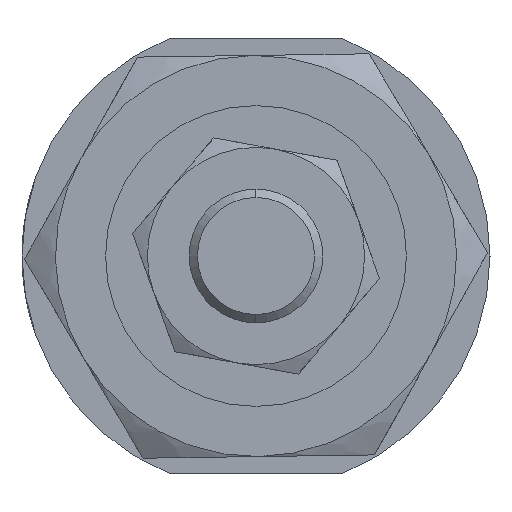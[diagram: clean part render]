
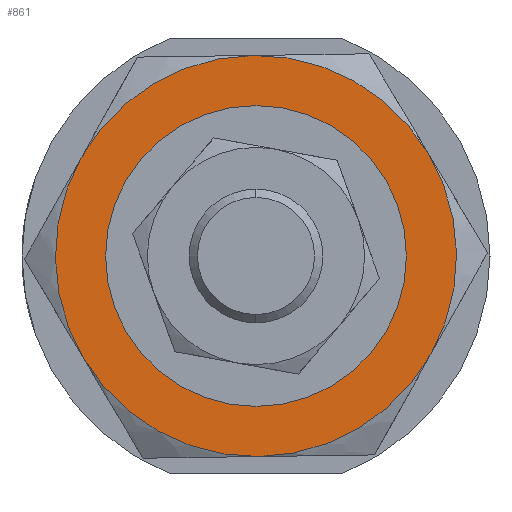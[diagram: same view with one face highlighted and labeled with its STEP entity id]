
A CAD part, left-side view. The second image highlights one B-rep face of the part: STEP entity #861.
In plain terms, the highlighted planar face has unit normal (-1, 0, 0) as drawn and (0, 0, -1) by its records, which use the part's own axes.
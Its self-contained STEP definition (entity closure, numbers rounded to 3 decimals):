
#3 = CIRCLE ( 'NONE', #1424, 12. ) ;
#40 = VERTEX_POINT ( 'NONE', #65 ) ;
#65 = CARTESIAN_POINT ( 'NONE',  ( -6., 10.392, -4. ) ) ;
#128 = DIRECTION ( 'NONE',  ( 0., 0., 1. ) ) ;
#292 = EDGE_CURVE ( 'NONE', #2712, #2798, #1678, .T. ) ;
#309 = VERTEX_POINT ( 'NONE', #1172 ) ;
#412 = FACE_BOUND ( 'NONE', #1720, .T. ) ;
#442 = DIRECTION ( 'NONE',  ( 0., 0., 1. ) ) ;
#443 = CIRCLE ( 'NONE', #2766, 12. ) ;
#471 = DIRECTION ( 'NONE',  ( 0., 0., 1. ) ) ;
#477 = DIRECTION ( 'NONE',  ( 1., 0., 0. ) ) ;
#511 = CIRCLE ( 'NONE', #2708, 12. ) ;
#552 = AXIS2_PLACEMENT_3D ( 'NONE', #643, #2768, #2033 ) ;
#580 = DIRECTION ( 'NONE',  ( 0., 0., 1. ) ) ;
#618 = EDGE_CURVE ( 'NONE', #309, #1118, #1899, .T. ) ;
#631 = CIRCLE ( 'NONE', #2031, 12. ) ;
#643 = CARTESIAN_POINT ( 'NONE',  ( 0., 0., -4. ) ) ;
#689 = CARTESIAN_POINT ( 'NONE',  ( 0., 0., -4. ) ) ;
#807 = CARTESIAN_POINT ( 'NONE',  ( 6., -10.392, -4. ) ) ;
#820 = EDGE_LOOP ( 'NONE', ( #1946, #2755, #2427, #1942, #1575, #899 ) ) ;
#860 = CARTESIAN_POINT ( 'NONE',  ( 6., 10.392, -4. ) ) ;
#861 = ADVANCED_FACE ( 'NONE', ( #412, #1142 ), #1188, .F. ) ;
#872 = AXIS2_PLACEMENT_3D ( 'NONE', #1376, #128, #2034 ) ;
#899 = ORIENTED_EDGE ( 'NONE', *, *, #2278, .F. ) ;
#904 = ORIENTED_EDGE ( 'NONE', *, *, #618, .T. ) ;
#929 = AXIS2_PLACEMENT_3D ( 'NONE', #1695, #471, #477 ) ;
#998 = EDGE_CURVE ( 'NONE', #2883, #2711, #1374, .T. ) ;
#1009 = CARTESIAN_POINT ( 'NONE',  ( 0., 0., -4. ) ) ;
#1033 = DIRECTION ( 'NONE',  ( 0., 0., 1. ) ) ;
#1046 = DIRECTION ( 'NONE',  ( 1., 0., 0. ) ) ;
#1118 = VERTEX_POINT ( 'NONE', #1289 ) ;
#1127 = CARTESIAN_POINT ( 'NONE',  ( -6., -10.392, -4. ) ) ;
#1142 = FACE_OUTER_BOUND ( 'NONE', #820, .T. ) ;
#1172 = CARTESIAN_POINT ( 'NONE',  ( -8.25, 0., -4. ) ) ;
#1177 = AXIS2_PLACEMENT_3D ( 'NONE', #2891, #2879, #2543 ) ;
#1188 = PLANE ( 'NONE',  #929 ) ;
#1278 = CARTESIAN_POINT ( 'NONE',  ( 12., 0., -4. ) ) ;
#1289 = CARTESIAN_POINT ( 'NONE',  ( 8.25, 0., -4. ) ) ;
#1310 = DIRECTION ( 'NONE',  ( 1., 0., 0. ) ) ;
#1374 = CIRCLE ( 'NONE', #2667, 12. ) ;
#1376 = CARTESIAN_POINT ( 'NONE',  ( 0., 0., -4. ) ) ;
#1424 = AXIS2_PLACEMENT_3D ( 'NONE', #2800, #442, #3032 ) ;
#1552 = CARTESIAN_POINT ( 'NONE',  ( -12., 0., -4. ) ) ;
#1574 = EDGE_CURVE ( 'NONE', #1118, #309, #2444, .T. ) ;
#1575 = ORIENTED_EDGE ( 'NONE', *, *, #2932, .F. ) ;
#1678 = CIRCLE ( 'NONE', #552, 12. ) ;
#1695 = CARTESIAN_POINT ( 'NONE',  ( 0., 0., -4. ) ) ;
#1720 = EDGE_LOOP ( 'NONE', ( #2055, #904 ) ) ;
#1735 = CARTESIAN_POINT ( 'NONE',  ( 0., 0., -4. ) ) ;
#1851 = EDGE_CURVE ( 'NONE', #2274, #2883, #443, .T. ) ;
#1899 = CIRCLE ( 'NONE', #1177, 8.25 ) ;
#1942 = ORIENTED_EDGE ( 'NONE', *, *, #1851, .F. ) ;
#1946 = ORIENTED_EDGE ( 'NONE', *, *, #292, .F. ) ;
#2031 = AXIS2_PLACEMENT_3D ( 'NONE', #2524, #2734, #1310 ) ;
#2033 = DIRECTION ( 'NONE',  ( 1., 0., 0. ) ) ;
#2034 = DIRECTION ( 'NONE',  ( 1., 0., 0. ) ) ;
#2055 = ORIENTED_EDGE ( 'NONE', *, *, #1574, .T. ) ;
#2225 = DIRECTION ( 'NONE',  ( 1., 0., 0. ) ) ;
#2274 = VERTEX_POINT ( 'NONE', #1552 ) ;
#2278 = EDGE_CURVE ( 'NONE', #2798, #40, #631, .T. ) ;
#2427 = ORIENTED_EDGE ( 'NONE', *, *, #998, .F. ) ;
#2444 = CIRCLE ( 'NONE', #872, 8.25 ) ;
#2455 = EDGE_CURVE ( 'NONE', #2711, #2712, #511, .T. ) ;
#2524 = CARTESIAN_POINT ( 'NONE',  ( 0., 0., -4. ) ) ;
#2543 = DIRECTION ( 'NONE',  ( 1., 0., 0. ) ) ;
#2613 = DIRECTION ( 'NONE',  ( 1., 0., 0. ) ) ;
#2667 = AXIS2_PLACEMENT_3D ( 'NONE', #1009, #1033, #2225 ) ;
#2708 = AXIS2_PLACEMENT_3D ( 'NONE', #689, #3051, #2613 ) ;
#2711 = VERTEX_POINT ( 'NONE', #807 ) ;
#2712 = VERTEX_POINT ( 'NONE', #1278 ) ;
#2734 = DIRECTION ( 'NONE',  ( 0., 0., 1. ) ) ;
#2755 = ORIENTED_EDGE ( 'NONE', *, *, #2455, .F. ) ;
#2766 = AXIS2_PLACEMENT_3D ( 'NONE', #1735, #580, #1046 ) ;
#2768 = DIRECTION ( 'NONE',  ( 0., 0., 1. ) ) ;
#2798 = VERTEX_POINT ( 'NONE', #860 ) ;
#2800 = CARTESIAN_POINT ( 'NONE',  ( 0., 0., -4. ) ) ;
#2879 = DIRECTION ( 'NONE',  ( 0., 0., 1. ) ) ;
#2883 = VERTEX_POINT ( 'NONE', #1127 ) ;
#2891 = CARTESIAN_POINT ( 'NONE',  ( 0., 0., -4. ) ) ;
#2932 = EDGE_CURVE ( 'NONE', #40, #2274, #3, .T. ) ;
#3032 = DIRECTION ( 'NONE',  ( 1., 0., 0. ) ) ;
#3051 = DIRECTION ( 'NONE',  ( 0., 0., 1. ) ) ;
